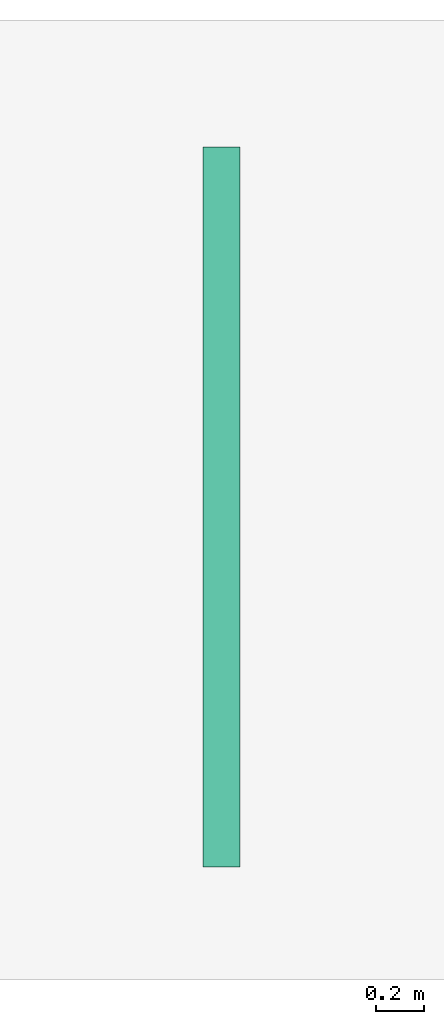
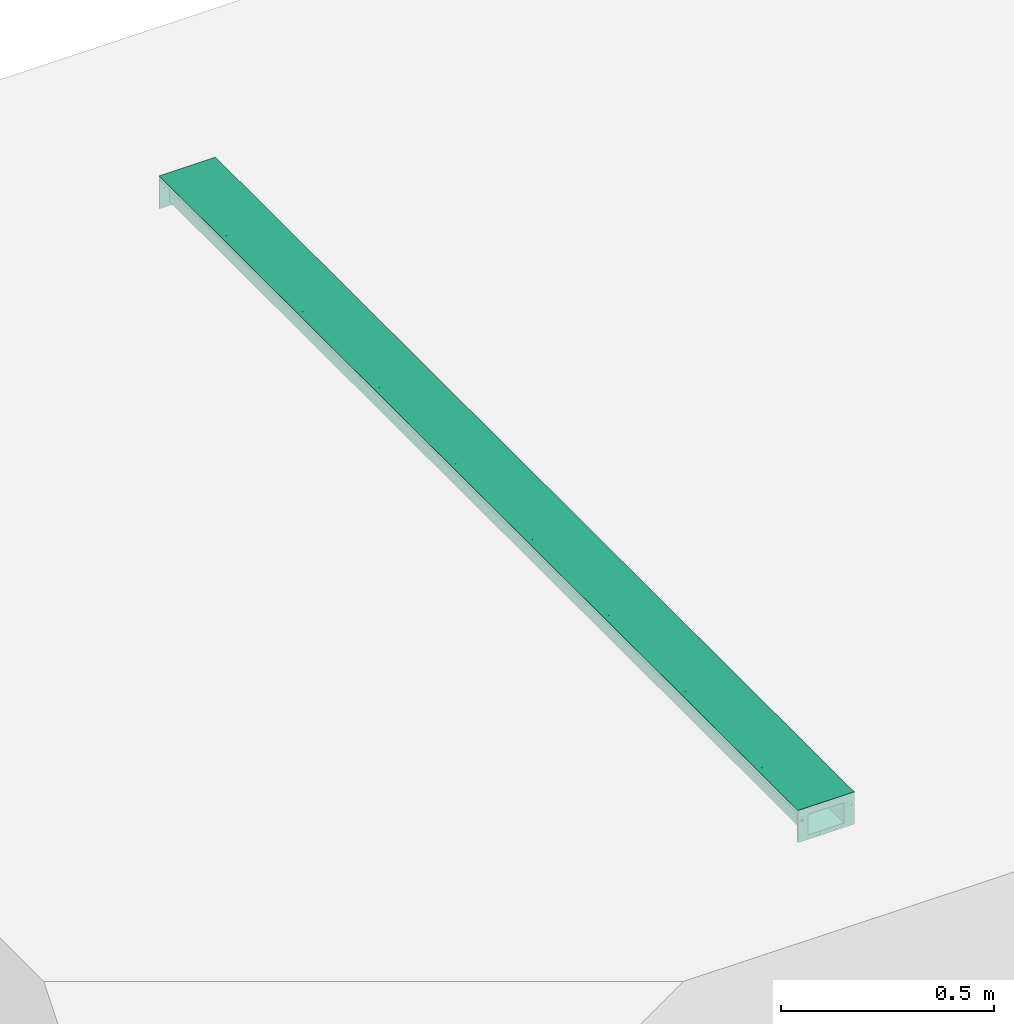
# One storey, part 2 of 2: 1 flow terminal.
"""IFC2X3 building model written with IfcOpenShell, lengths in millimetres."""

from ifc_helpers import new_model, entity, si_unit, converted_unit, direction, frame, frame_2d, origin, origin_2d_with_axis, place, context, subcontext, project, spatial, polyline, circle_curve, parameter, trimmed, segment, composite_curve, rectangle, outline, extrude, source, transform, mapped, material, material_list, element, save


model = new_model("IFC2X3")

# Units and contexts
model_context = context("Model", 3, precision=1e-06, world=origin(), true_north=direction((2.0, 6.12303176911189e-17, 1.0)))
context_of_model = context(None, 3, precision=1e-06, world=origin(), true_north=direction((2.0, 6.12303176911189e-17, 1.0)))
body_context = subcontext(model_context, "Body", "Model", "MODEL_VIEW")
ifc_project = project(units=[si_unit("LENGTHUNIT", "METRE", prefix="MILLI"), si_unit("AREAUNIT", "SQUARE_METRE", prefix="MILLI"), si_unit("VOLUMEUNIT", "CUBIC_METRE", prefix="MILLI"), converted_unit("PLANEANGLEUNIT", "DEGREE", entity("IfcRatioMeasure", 0.0174532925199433), si_unit("PLANEANGLEUNIT", "RADIAN"), dimensions=[0, 0, 0, 0, 0, 0, 0]), si_unit("TIMEUNIT", "SECOND")], contexts=[model_context, context_of_model])

# Site, building, storey
site_placement = place(None, origin())
site = spatial("IfcSite", under=ifc_project, at=site_placement, Name="Default", CompositionType="ELEMENT")
building_placement = place(site_placement, origin())
building = spatial("IfcBuilding", under=site, at=building_placement, CompositionType="ELEMENT")
storey_placement = place(building_placement, origin())
storey = spatial("IfcBuildingStorey", under=building, at=storey_placement, Name="Level 1", CompositionType="ELEMENT", Elevation=0.0)

# Flow terminal
ifc_material_1 = material(Name="Stainless Steel AISI 304")
ifc_material_2 = material(Name="Polystyrene, High Impact (F)")
ifc_material_list = material_list([ifc_material_1, ifc_material_2])
shared_shape = source(origin(), body_context, "Body", "SweptSolid", [
    extrude(rectangle(XDim=3000.0, YDim=124.999917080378, at=origin_2d_with_axis()), frame((4.14598109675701e-05, 1500.0, -21.0), z_axis=(0.0, 0.0, 1.0), x_axis=(0.0, 1.0, 0.0)), (0.0, 0.0, 1.0), 20.9999999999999),
    extrude(outline(polyline([(-76.50002763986, -35.8000000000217), (-62.4999447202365, -35.8000000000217), (-62.4999447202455, -14.8000000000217), (-48.4999447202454, -14.8000000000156), (-48.4999447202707, 44.1999999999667), (48.4999723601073, 44.2000000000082), (48.4999723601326, -14.7999999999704), (62.4999723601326, -14.7999999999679), (62.4999723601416, -35.7999999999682), (76.4999723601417, -35.7999999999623), (76.499972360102, 57.0), (-76.5000276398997, 57.0), (-76.50002763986, -35.8000000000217)]), holes=[composite_curve([segment(trimmed(circle_curve(frame_2d((67.7349848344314, -3.90142745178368), x_axis=(1.0, 0.0)), 3.5), [parameter(0.0)], [parameter(180.0)], True, "PARAMETER"), False, "CONTINUOUS"), segment(trimmed(circle_curve(frame_2d((67.7349848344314, -3.90142745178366), x_axis=(1.0, 0.0)), 3.5), [parameter(180.0)], [parameter(360.0)], True, "PARAMETER"), False, "CONTINUOUS")], self_intersect=False), composite_curve([segment(trimmed(circle_curve(frame_2d((23.7349848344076, 50.9218749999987), x_axis=(1.0, 0.0)), 3.5), [parameter(0.0)], [parameter(180.0)], True, "PARAMETER"), False, "CONTINUOUS"), segment(trimmed(circle_curve(frame_2d((23.7349848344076, 50.9218749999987), x_axis=(1.0, 0.0)), 3.5), [parameter(180.0)], [parameter(0.0)], True, "PARAMETER"), False, "CONTINUOUS")], self_intersect=False), composite_curve([segment(trimmed(circle_curve(frame_2d((-21.2650151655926, 50.9218749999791), x_axis=(1.0, 0.0)), 3.5), [parameter(180.0)], [parameter(360.0)], True, "PARAMETER"), False, "CONTINUOUS"), segment(trimmed(circle_curve(frame_2d((-21.2650151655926, 50.9218749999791), x_axis=(1.0, 0.0)), 3.5), [parameter(360.0)], [parameter(180.0)], True, "PARAMETER"), False, "CONTINUOUS")], self_intersect=False), composite_curve([segment(trimmed(circle_curve(frame_2d((-65.2650151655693, -3.90142745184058), x_axis=(1.0, 0.0)), 3.5), [parameter(179.999999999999)], [parameter(360.0)], True, "PARAMETER"), False, "CONTINUOUS"), segment(trimmed(circle_curve(frame_2d((-65.2650151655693, -3.90142745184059), x_axis=(1.0, 0.0)), 3.5), [parameter(0.0)], [parameter(180.0)], True, "PARAMETER"), False, "CONTINUOUS")], self_intersect=False)]), frame((2.7639875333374e-05, 2997.0, -35.8000000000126), z_axis=(0.0, 1.0, 0.0), x_axis=(1.0, 0.0, 0.0)), (0.0, 0.0, 1.0), 2.99999999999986),
    extrude(outline(polyline([(-76.4999585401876, -35.80000137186), (-62.4999585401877, -35.80000137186), (-62.4999585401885, -14.8000013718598), (-48.4999585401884, -14.8000013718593), (-48.4999585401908, 44.1999986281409), (48.4999585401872, 44.1999986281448), (48.4999585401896, -14.8000013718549), (62.4999585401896, -14.8000013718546), (62.4999585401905, -35.800001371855), (76.4999585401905, -35.8000013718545), (76.4999585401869, 57.0000068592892), (-76.4999585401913, 57.0000068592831), (-76.4999585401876, -35.80000137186)]), holes=[composite_curve([segment(trimmed(circle_curve(frame_2d((67.7349710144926, -3.90142882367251), x_axis=(1.0, 0.0)), 3.5), [parameter(0.0)], [parameter(180.0)], True, "PARAMETER"), False, "CONTINUOUS"), segment(trimmed(circle_curve(frame_2d((67.7349710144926, -3.90142882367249), x_axis=(1.0, 0.0)), 3.5), [parameter(180.0)], [parameter(360.0)], True, "PARAMETER"), False, "CONTINUOUS")], self_intersect=False), composite_curve([segment(trimmed(circle_curve(frame_2d((23.7349710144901, 50.9218818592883), x_axis=(1.0, 0.0)), 3.5), [parameter(0.0)], [parameter(180.0)], True, "PARAMETER"), False, "CONTINUOUS"), segment(trimmed(circle_curve(frame_2d((23.7349710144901, 50.9218818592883), x_axis=(1.0, 0.0)), 3.5), [parameter(180.0)], [parameter(359.999999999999)], True, "PARAMETER"), False, "CONTINUOUS")], self_intersect=False), composite_curve([segment(trimmed(circle_curve(frame_2d((-21.2650289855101, 50.9218818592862), x_axis=(1.0, 0.0)), 3.5), [parameter(180.0)], [parameter(360.0)], True, "PARAMETER"), False, "CONTINUOUS"), segment(trimmed(circle_curve(frame_2d((-21.2650289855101, 50.9218818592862), x_axis=(1.0, 0.0)), 3.5), [parameter(360.0)], [parameter(180.0)], True, "PARAMETER"), False, "CONTINUOUS")], self_intersect=False), composite_curve([segment(trimmed(circle_curve(frame_2d((-65.265028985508, -3.90142882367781), x_axis=(1.0, 0.0)), 3.5), [parameter(180.0)], [parameter(0.0)], True, "PARAMETER"), False, "CONTINUOUS"), segment(trimmed(circle_curve(frame_2d((-65.265028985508, -3.90142882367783), x_axis=(1.0, 0.0)), 3.5), [parameter(0.0)], [parameter(180.0)], True, "PARAMETER"), False, "CONTINUOUS")], self_intersect=False)]), frame((4.14598109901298e-05, 0.0, -35.8000013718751), z_axis=(0.0, 1.0, 0.0), x_axis=(1.0, 0.0, 0.0)), (0.0, 0.0, 1.0), 3.0),
    extrude(outline(polyline([(-22.6243423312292, -62.4999585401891), (-22.6243423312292, -76.499958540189), (-12.6243423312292, -76.499958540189), (-12.6243423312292, -74.999958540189), (-21.1243423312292, -74.999958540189), (-21.1243423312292, -63.9999585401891), (-0.124342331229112, -63.9999585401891), (-0.124342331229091, -49.999958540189), (58.8717116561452, -49.999958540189), (58.8717116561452, 49.999958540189), (-0.124342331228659, 49.999958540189), (-0.124342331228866, 63.999958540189), (-21.124342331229, 63.9999585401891), (-21.1243423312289, 74.9999585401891), (-12.6243423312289, 74.9999585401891), (-12.6243423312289, 76.4999585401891), (-22.6243423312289, 76.4999585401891), (-22.624342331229, 62.4999585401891), (-1.62434233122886, 62.499958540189), (-1.62434233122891, 48.499958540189), (57.3717116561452, 48.499958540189), (57.3717116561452, -48.499958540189), (-1.62434233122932, -48.499958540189), (-1.62434233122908, -62.4999585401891), (-22.6243423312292, -62.4999585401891)])), frame((4.14598110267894e-05, 3.0, -22.6282883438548), z_axis=(0.0, -1.0, 0.0), x_axis=(0.0, 0.0, -1.0)), (0.0, 0.0, -1.0), 2994.0),
    extrude(rectangle(XDim=2997.0, YDim=11.0, at=frame_2d((2.27373675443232e-13, 0.0), x_axis=(1.0, 0.0))), frame((69.5000000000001, 1501.5, -10.0), z_axis=(0.0, 0.0, 1.0), x_axis=(0.0, 1.0, 0.0)), (0.0, 0.0, 1.0), 8.50000000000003),
    extrude(rectangle(XDim=2997.0, YDim=10.9999999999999, at=frame_2d((2.27373675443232e-13, 0.0), x_axis=(1.0, 0.0))), frame((-69.499917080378, 1501.5, -10.0), z_axis=(0.0, 0.0, 1.0), x_axis=(0.0, 1.0, 0.0)), (0.0, 0.0, 1.0), 8.50000000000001),
])
flow_terminal_placement = place(storey_placement, frame((-82.2883701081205, -1527.95050146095, 0.0)))
element("IfcFlowTerminal", 1, at=flow_terminal_placement, inside=storey, material=ifc_material_list, Name="ACO BD Modular 125 Level Invert Straight Channels:105145 - Straight Channel - 3000mm LG - Invert Depth 80mm:105145 - Straight Channel - 3000mm LG - Invert Depth 80mm", ObjectType="105145 - Straight Channel - 3000mm LG - Invert Depth 80mm", context=body_context, shape_type="MappedRepresentation", body=[
    mapped(shared_shape, transform((0.0, 0.0, 0.0), scale=1.0)),
])

save(model, "model.ifc")
